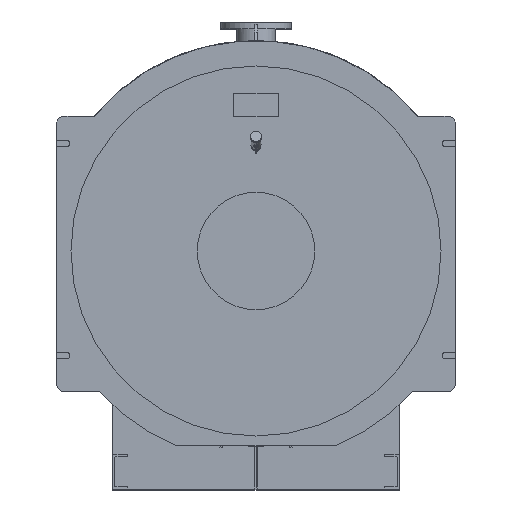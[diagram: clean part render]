
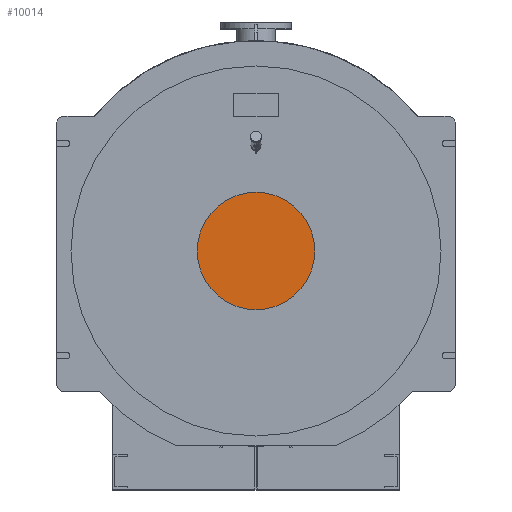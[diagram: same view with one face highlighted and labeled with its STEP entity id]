
A CAD part, top view. The second image highlights one B-rep face of the part: STEP entity #10014.
In plain terms, the highlighted planar face has unit normal (0, 0, 1).
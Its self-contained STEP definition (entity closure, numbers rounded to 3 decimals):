
#205=PLANE('',#10626);
#594=FACE_OUTER_BOUND('',#1140,.T.);
#1140=EDGE_LOOP('',(#6565));
#1719=CIRCLE('',#10627,205.);
#4039=VERTEX_POINT('',#14874);
#5006=EDGE_CURVE('',#4039,#4039,#1719,.T.);
#6565=ORIENTED_EDGE('',*,*,#5006,.F.);
#10014=ADVANCED_FACE('',(#594),#205,.T.);
#10626=AXIS2_PLACEMENT_3D('',#14873,#11815,#11816);
#10627=AXIS2_PLACEMENT_3D('',#14875,#11817,#11818);
#11815=DIRECTION('center_axis',(0.,0.,1.));
#11816=DIRECTION('ref_axis',(1.,0.,0.));
#11817=DIRECTION('center_axis',(0.,0.,-1.));
#11818=DIRECTION('ref_axis',(1.,0.,0.));
#14873=CARTESIAN_POINT('Origin',(0.,0.,1915.));
#14874=CARTESIAN_POINT('',(-205.,0.,1915.));
#14875=CARTESIAN_POINT('Origin',(0.,0.,1915.));
